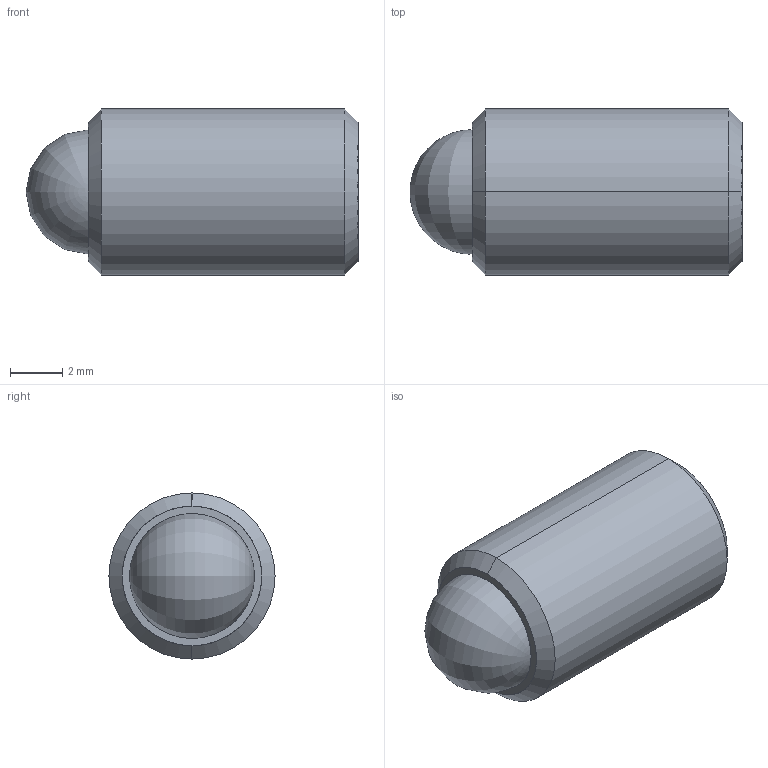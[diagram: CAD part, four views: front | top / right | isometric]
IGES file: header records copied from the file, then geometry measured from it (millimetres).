
Start section: SolidWorks IGES file using analytic representation for surfaces
Global section: file name: C:\Users\workpc\Desktop\KMA Solidworks\TS250-100 Series\TS250-100-500-AA.IGS; native system: SolidWorks 2013; preprocessor: SolidWorks 2013; author: workpc; date: 130213.085738; units: inch
Bounding box: 12.7 x 6.35 x 6.35 mm (x, y, z)
Surface area: 373.3 mm2 (no closed solid volume)
Topology: 0 solids, 0 shells, 20 faces, 204 edges, 200 vertices
Faces by surface type: revolution 10, bspline 10
